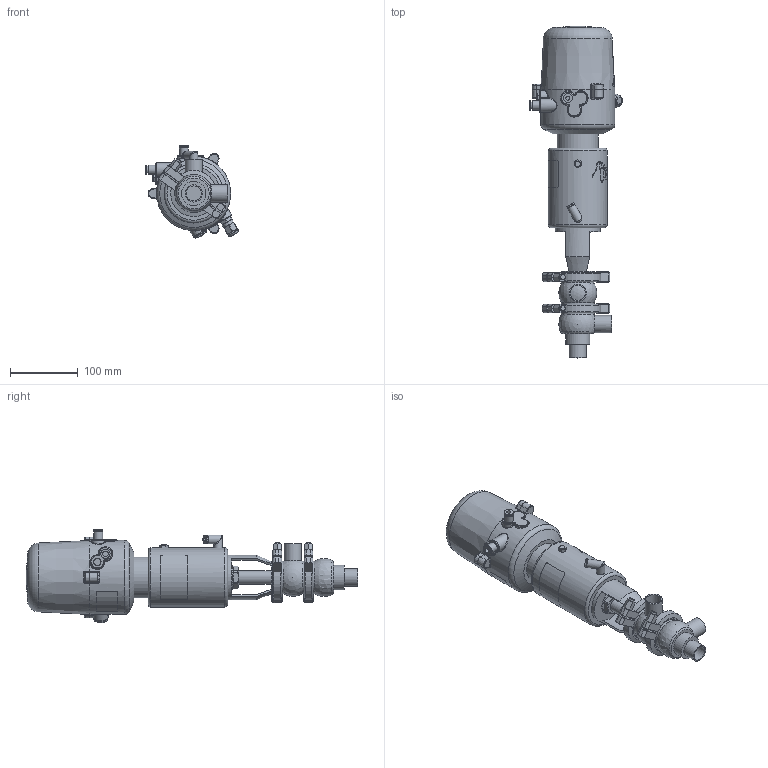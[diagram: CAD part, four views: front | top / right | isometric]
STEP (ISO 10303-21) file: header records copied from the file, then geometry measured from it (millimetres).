
FILE_DESCRIPTION (( 'STEP AP214' ), '1' );
FILE_NAME ('INNOVA K H W OD 1 T1 AS NC & C-TOP S_10.240.16.0073.STEP', '2024-08-06T08:54:30', ( '' ), ( '' ), 'SwSTEP 2.0', 'SolidWorks 2023', '' );
FILE_SCHEMA (( 'AUTOMOTIVE_DESIGN' ));
Length unit declared in the file: millimetre
Products named in the file (8): 10.240.15.0006_OD 1"; 10.240.15.0017_Estàndard; 10.240.15.0001_DN 025; 10.240.15.0014_T1 AS P0; 10.426.15.0001_C-TOP S - 1 EV; 10.240.15.0002_OD 1"; 10.240.15.0010_DN 025; INNOVA K H W OD 1 T1 AS NC & C-TOP S_10.240.16.0073
Assembly tree (8 placements, depth 2):
  INNOVA K H W OD 1 T1 AS NC & C-TOP S_10.240.16.0073
    10.240.15.0006_OD 1"
    10.240.15.0002_OD 1"
    10.240.15.0010_DN 025
    10.240.15.0014_T1 AS P0
    10.240.15.0017_Estàndard
    10.426.15.0001_C-TOP S - 1 EV
    10.240.15.0001_DN 025  x2
Bounding box: 136.88 x 489 x 137.63 mm (x, y, z)
Volume: 2490943.3 mm3; surface area: 225937.9 mm2
Topology: 8 solids, 8 shells, 1177 faces, 2844 edges, 1892 vertices
Faces by surface type: plane 410, cylinder 357, cone 205, bspline 160, torus 37, sphere 8
Full cylindrical faces by diameter (mm): 0.371 x17, 0.512 x16, 0.658 x16, 0.795 x16, 0.94 x15, 1.098 x15, 1.241 x13, 1.382 x13, 1.523 x11, 1.669 x10, 2.201 x1, 4 x2, 5.5 x2, 6 x2, 6.15 x1, 8 x6, 8.5 x1, 10 x1, 10.5 x1, 11 x2, 12.5 x3, 13 x2, 13.5 x2, 16 x1, 17 x3, 20 x3, 20.5 x1, 22 x2, 22.1 x3, 25.4 x3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
Entity records: 57111 total; most frequent: CARTESIAN_POINT 26783, ORIENTED_EDGE 4538, DIRECTION 3677, EDGE_CURVE 2269, VERTEX_POINT 1613, EDGE_LOOP 1574, AXIS2_PLACEMENT_3D 1506, FACE_OUTER_BOUND 1337
